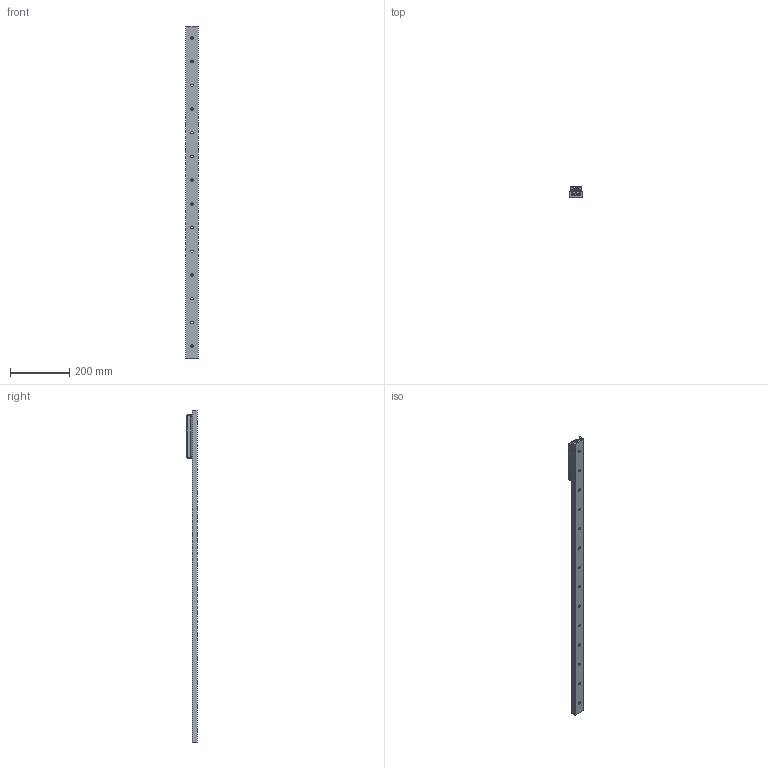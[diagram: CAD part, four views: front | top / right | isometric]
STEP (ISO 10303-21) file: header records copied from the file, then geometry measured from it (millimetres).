
FILE_DESCRIPTION( ( 'STEP AP214' ), '1' );
FILE_NAME( 'p:/temp/worker_54/temp/exporttempdir_3164_718_YOInD/format_1/TGV-01120_1_RV43G-3.stp', '2021-06-09T18:25:33', ( 'License CC BY-ND 4.0' ), ( 'CADENAS' ), ' ', 'PARTsolutions', ' ' );
FILE_SCHEMA( ( 'AUTOMOTIVE_DESIGN { 1 0 10303 214 1 1 1 1 }' ) );
Length unit declared in the file: millimetre
Products named in the file (6): TGV-01120/1/RV43G-3; _TGV43-1120-(3-1); _RVG43-3-slider; _RGNV43R; _RGAV43R; _WR43G-01
Assembly tree (7 placements, depth 2):
  TGV-01120/1/RV43G-3
    _TGV43-1120-(3-1)
    _RVG43-3-slider
    _RGNV43R  x2
    _RGAV43R
    _WR43G-01  x2
Bounding box: 43 x 37 x 1120 mm (x, y, z)
Volume: 530997.4 mm3; surface area: 212716.1 mm2
Topology: 7 solids, 7 shells, 1069 faces, 2794 edges, 1821 vertices
Faces by surface type: plane 663, cylinder 310, cone 53, bspline 34, torus 9
Full cylindrical faces by diameter (mm): 1.76 x4, 3 x8, 6 x4, 6.647 x4, 6.8 x3, 8 x3, 8.5 x14, 11 x11, 15 x6, 15.5 x1, 18.98 x2, 19 x1, 31.4 x6
Entity records: 25473 total; most frequent: CARTESIAN_POINT 4038, DIRECTION 3407, ORIENTED_EDGE 3148, EDGE_CURVE 1574, AXIS2_PLACEMENT_3D 1300, VERTEX_POINT 1093, EDGE_LOOP 881, LINE 807
